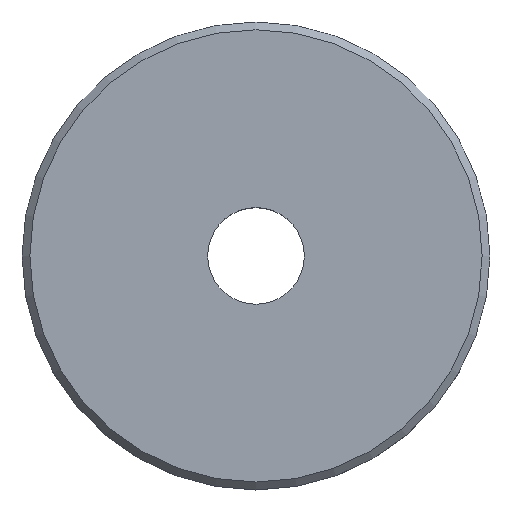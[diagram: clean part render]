
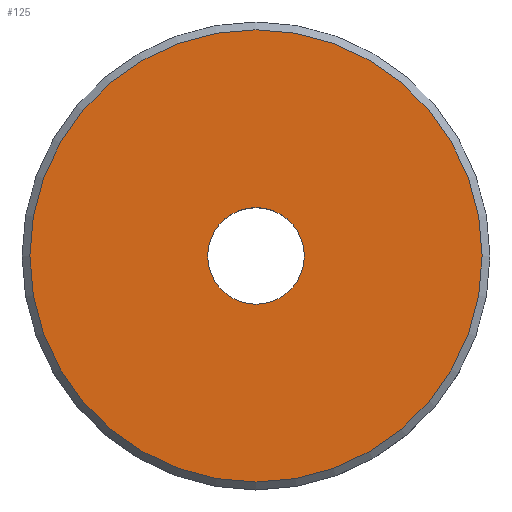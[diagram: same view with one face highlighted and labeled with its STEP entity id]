
A CAD part, top view. The second image highlights one B-rep face of the part: STEP entity #125.
In plain terms, the highlighted planar face has unit normal (0, 0, 1).
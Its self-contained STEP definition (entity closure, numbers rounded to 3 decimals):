
#1 = CARTESIAN_POINT ( 'NONE',  ( 3.1, 0., 3. ) ) ;
#8 = DIRECTION ( 'NONE',  ( 1., 0., 0. ) ) ;
#12 = AXIS2_PLACEMENT_3D ( 'NONE', #106, #144, #48 ) ;
#19 = AXIS2_PLACEMENT_3D ( 'NONE', #94, #62, #8 ) ;
#33 = CIRCLE ( 'NONE', #19, 3.1 ) ;
#42 = CARTESIAN_POINT ( 'NONE',  ( 0., 0., 3. ) ) ;
#43 = DIRECTION ( 'NONE',  ( 1., 0., 0. ) ) ;
#48 = DIRECTION ( 'NONE',  ( 1., 0., 0. ) ) ;
#62 = DIRECTION ( 'NONE',  ( 0., 0., 1. ) ) ;
#72 = EDGE_LOOP ( 'NONE', ( #81 ) ) ;
#77 = CARTESIAN_POINT ( 'NONE',  ( 14.5, 0., 3. ) ) ;
#78 = FACE_BOUND ( 'NONE', #150, .T. ) ;
#81 = ORIENTED_EDGE ( 'NONE', *, *, #110, .T. ) ;
#86 = AXIS2_PLACEMENT_3D ( 'NONE', #42, #118, #43 ) ;
#91 = FACE_OUTER_BOUND ( 'NONE', #72, .T. ) ;
#94 = CARTESIAN_POINT ( 'NONE',  ( 0., 0., 3. ) ) ;
#102 = ORIENTED_EDGE ( 'NONE', *, *, #155, .F. ) ;
#106 = CARTESIAN_POINT ( 'NONE',  ( 0., 0., 3. ) ) ;
#110 = EDGE_CURVE ( 'NONE', #146, #146, #134, .T. ) ;
#118 = DIRECTION ( 'NONE',  ( 0., 0., 1. ) ) ;
#123 = VERTEX_POINT ( 'NONE', #1 ) ;
#125 = ADVANCED_FACE ( 'NONE', ( #91, #78 ), #159, .T. ) ;
#134 = CIRCLE ( 'NONE', #86, 14.5 ) ;
#144 = DIRECTION ( 'NONE',  ( 0., 0., 1. ) ) ;
#146 = VERTEX_POINT ( 'NONE', #77 ) ;
#150 = EDGE_LOOP ( 'NONE', ( #102 ) ) ;
#155 = EDGE_CURVE ( 'NONE', #123, #123, #33, .T. ) ;
#159 = PLANE ( 'NONE',  #12 ) ;
